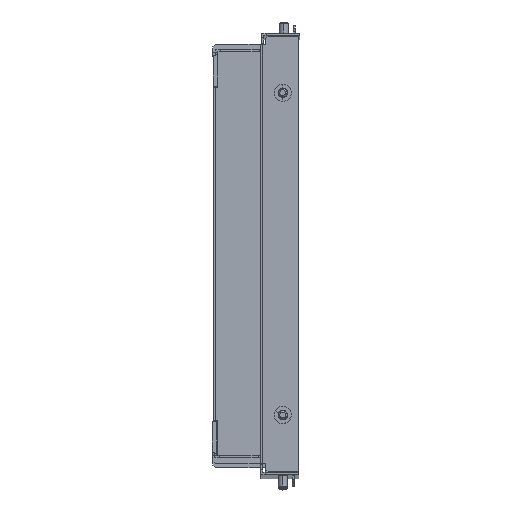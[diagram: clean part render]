
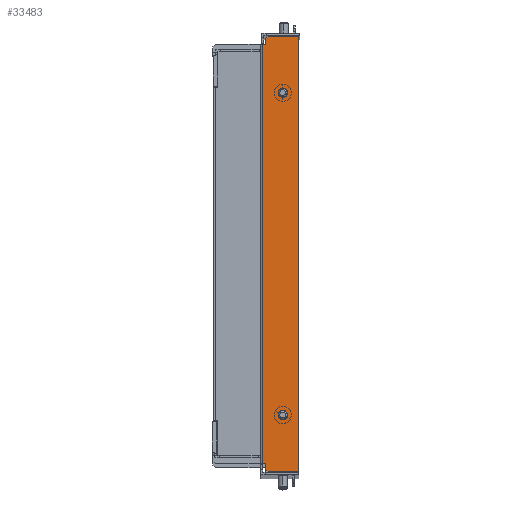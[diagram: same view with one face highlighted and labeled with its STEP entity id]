
A CAD part, top view. The second image highlights one B-rep face of the part: STEP entity #33483.
In plain terms, the highlighted planar face has unit normal (0, 0, 1).
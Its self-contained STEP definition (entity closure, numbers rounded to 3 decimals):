
#249 = CARTESIAN_POINT ( 'NONE',  ( 17.807, 245.878, 2691.5 ) ) ;
#721 = CARTESIAN_POINT ( 'NONE',  ( 28.807, 285.378, 2691.5 ) ) ;
#1241 = ORIENTED_EDGE ( 'NONE', *, *, #10177, .T. ) ;
#1434 = DIRECTION ( 'NONE',  ( 0., -1., 0. ) ) ;
#1448 = CARTESIAN_POINT ( 'NONE',  ( 5.507, -13.122, 2691.5 ) ) ;
#1611 = CARTESIAN_POINT ( 'NONE',  ( 17.807, 245.878, 2691.5 ) ) ;
#2145 = EDGE_CURVE ( 'NONE', #9760, #33600, #11043, .T. ) ;
#2390 = EDGE_CURVE ( 'NONE', #31753, #2550, #22107, .T. ) ;
#2550 = VERTEX_POINT ( 'NONE', #11202 ) ;
#2728 = DIRECTION ( 'NONE',  ( -1., 0., 0. ) ) ;
#2949 = VERTEX_POINT ( 'NONE', #2960 ) ;
#2960 = CARTESIAN_POINT ( 'NONE',  ( 7.507, -18.622, 2691.5 ) ) ;
#3360 = CARTESIAN_POINT ( 'NONE',  ( 2.307, 285.378, 2691.5 ) ) ;
#3705 = DIRECTION ( 'NONE',  ( 0., 0., -1. ) ) ;
#4254 = VECTOR ( 'NONE', #27036, 1000. ) ;
#4578 = CARTESIAN_POINT ( 'NONE',  ( 5.507, -13.122, 2691.5 ) ) ;
#4809 = LINE ( 'NONE', #18665, #4254 ) ;
#5143 = CIRCLE ( 'NONE', #17975, 3.25 ) ;
#5677 = EDGE_CURVE ( 'NONE', #34675, #7368, #19166, .T. ) ;
#6125 = ORIENTED_EDGE ( 'NONE', *, *, #30540, .T. ) ;
#6188 = PLANE ( 'NONE',  #21873 ) ;
#6610 = EDGE_CURVE ( 'NONE', #7368, #28368, #22666, .T. ) ;
#6611 = VECTOR ( 'NONE', #12867, 1000. ) ;
#6713 = ORIENTED_EDGE ( 'NONE', *, *, #2390, .T. ) ;
#7368 = VERTEX_POINT ( 'NONE', #11284 ) ;
#7638 = EDGE_CURVE ( 'NONE', #33965, #16333, #25662, .T. ) ;
#7882 = CARTESIAN_POINT ( 'NONE',  ( 28.807, 279.878, 2691.5 ) ) ;
#8342 = CARTESIAN_POINT ( 'NONE',  ( 28.807, 285.378, 2691.5 ) ) ;
#8650 = AXIS2_PLACEMENT_3D ( 'NONE', #249, #3705, #11723 ) ;
#8916 = ORIENTED_EDGE ( 'NONE', *, *, #5677, .T. ) ;
#9760 = VERTEX_POINT ( 'NONE', #19961 ) ;
#10177 = EDGE_CURVE ( 'NONE', #2550, #31753, #10971, .T. ) ;
#10366 = CARTESIAN_POINT ( 'NONE',  ( 18.157, 296.028, 2691.5 ) ) ;
#10971 = CIRCLE ( 'NONE', #8650, 3.25 ) ;
#11043 = CIRCLE ( 'NONE', #30818, 3.25 ) ;
#11202 = CARTESIAN_POINT ( 'NONE',  ( 21.057, 245.878, 2691.5 ) ) ;
#11284 = CARTESIAN_POINT ( 'NONE',  ( 2.307, 279.878, 2691.5 ) ) ;
#11723 = DIRECTION ( 'NONE',  ( -1., 0., 0. ) ) ;
#11843 = CARTESIAN_POINT ( 'NONE',  ( 5.507, 279.878, 2691.5 ) ) ;
#11973 = VECTOR ( 'NONE', #17039, 1000. ) ;
#12387 = CARTESIAN_POINT ( 'NONE',  ( 14.557, 20.878, 2691.5 ) ) ;
#12508 = CARTESIAN_POINT ( 'NONE',  ( 5.507, 285.378, 2691.5 ) ) ;
#12867 = DIRECTION ( 'NONE',  ( 0., -1., 0. ) ) ;
#13018 = DIRECTION ( 'NONE',  ( -1., 0., 0. ) ) ;
#13503 = CARTESIAN_POINT ( 'NONE',  ( 7.507, 285.378, 2691.5 ) ) ;
#13590 = DIRECTION ( 'NONE',  ( 0.707, -0.707, 0. ) ) ;
#14559 = VERTEX_POINT ( 'NONE', #4578 ) ;
#15948 = ORIENTED_EDGE ( 'NONE', *, *, #6610, .T. ) ;
#16170 = CARTESIAN_POINT ( 'NONE',  ( 2.307, -13.122, 2691.5 ) ) ;
#16333 = VERTEX_POINT ( 'NONE', #21995 ) ;
#16509 = LINE ( 'NONE', #27588, #31262 ) ;
#16935 = CARTESIAN_POINT ( 'NONE',  ( 17.807, 20.878, 2691.5 ) ) ;
#17039 = DIRECTION ( 'NONE',  ( 0., -1., 0. ) ) ;
#17081 = VERTEX_POINT ( 'NONE', #13503 ) ;
#17520 = ORIENTED_EDGE ( 'NONE', *, *, #19838, .T. ) ;
#17575 = EDGE_CURVE ( 'NONE', #14559, #28368, #25675, .T. ) ;
#17853 = DIRECTION ( 'NONE',  ( 0., 0., -1. ) ) ;
#17975 = AXIS2_PLACEMENT_3D ( 'NONE', #16935, #25644, #22360 ) ;
#18313 = CARTESIAN_POINT ( 'NONE',  ( 28.807, -18.622, 2691.5 ) ) ;
#18373 = VECTOR ( 'NONE', #1434, 1000. ) ;
#18665 = CARTESIAN_POINT ( 'NONE',  ( 5.507, -18.622, 2691.5 ) ) ;
#19166 = LINE ( 'NONE', #7882, #19291 ) ;
#19291 = VECTOR ( 'NONE', #32838, 1000. ) ;
#19480 = VERTEX_POINT ( 'NONE', #22143 ) ;
#19838 = EDGE_CURVE ( 'NONE', #14559, #23054, #4809, .T. ) ;
#19961 = CARTESIAN_POINT ( 'NONE',  ( 21.057, 20.878, 2691.5 ) ) ;
#20022 = VECTOR ( 'NONE', #21460, 1000. ) ;
#20539 = EDGE_LOOP ( 'NONE', ( #33363, #32379 ) ) ;
#20798 = CARTESIAN_POINT ( 'NONE',  ( 14.557, 245.878, 2691.5 ) ) ;
#21253 = CARTESIAN_POINT ( 'NONE',  ( -133.843, 122.728, 2691.5 ) ) ;
#21460 = DIRECTION ( 'NONE',  ( -0.707, -0.707, 0. ) ) ;
#21621 = ORIENTED_EDGE ( 'NONE', *, *, #7638, .F. ) ;
#21873 = AXIS2_PLACEMENT_3D ( 'NONE', #33889, #33330, #22768 ) ;
#21922 = VECTOR ( 'NONE', #13590, 1000. ) ;
#21995 = CARTESIAN_POINT ( 'NONE',  ( 28.807, -18.622, 2691.5 ) ) ;
#22107 = CIRCLE ( 'NONE', #30234, 3.25 ) ;
#22143 = CARTESIAN_POINT ( 'NONE',  ( 5.507, 283.378, 2691.5 ) ) ;
#22306 = DIRECTION ( 'NONE',  ( -1., 0., 0. ) ) ;
#22360 = DIRECTION ( 'NONE',  ( -1., 0., 0. ) ) ;
#22666 = LINE ( 'NONE', #3360, #11973 ) ;
#22768 = DIRECTION ( 'NONE',  ( 1., 0., 0. ) ) ;
#23054 = VERTEX_POINT ( 'NONE', #34083 ) ;
#23186 = ORIENTED_EDGE ( 'NONE', *, *, #17575, .F. ) ;
#23671 = EDGE_CURVE ( 'NONE', #23054, #2949, #27077, .T. ) ;
#23953 = EDGE_CURVE ( 'NONE', #16333, #2949, #35427, .T. ) ;
#24681 = ORIENTED_EDGE ( 'NONE', *, *, #23953, .F. ) ;
#25429 = EDGE_LOOP ( 'NONE', ( #17520, #31391, #24681, #21621, #28857, #6125, #35829, #8916, #15948, #23186 ) ) ;
#25490 = FACE_BOUND ( 'NONE', #29577, .T. ) ;
#25579 = EDGE_CURVE ( 'NONE', #33965, #17081, #16509, .T. ) ;
#25644 = DIRECTION ( 'NONE',  ( 0., 0., -1. ) ) ;
#25662 = LINE ( 'NONE', #721, #18373 ) ;
#25675 = LINE ( 'NONE', #1448, #29202 ) ;
#25856 = DIRECTION ( 'NONE',  ( -1., 0., 0. ) ) ;
#26780 = EDGE_CURVE ( 'NONE', #33600, #9760, #5143, .T. ) ;
#27036 = DIRECTION ( 'NONE',  ( 0., -1., 0. ) ) ;
#27077 = LINE ( 'NONE', #21253, #21922 ) ;
#27588 = CARTESIAN_POINT ( 'NONE',  ( 28.807, 285.378, 2691.5 ) ) ;
#27669 = DIRECTION ( 'NONE',  ( 0., 0., -1. ) ) ;
#28221 = FACE_OUTER_BOUND ( 'NONE', #25429, .T. ) ;
#28368 = VERTEX_POINT ( 'NONE', #16170 ) ;
#28857 = ORIENTED_EDGE ( 'NONE', *, *, #25579, .T. ) ;
#29202 = VECTOR ( 'NONE', #25856, 1000. ) ;
#29234 = LINE ( 'NONE', #12508, #6611 ) ;
#29485 = VECTOR ( 'NONE', #13018, 1000. ) ;
#29577 = EDGE_LOOP ( 'NONE', ( #6713, #1241 ) ) ;
#29732 = EDGE_CURVE ( 'NONE', #19480, #34675, #29234, .T. ) ;
#30234 = AXIS2_PLACEMENT_3D ( 'NONE', #1611, #17853, #32212 ) ;
#30540 = EDGE_CURVE ( 'NONE', #17081, #19480, #32748, .T. ) ;
#30818 = AXIS2_PLACEMENT_3D ( 'NONE', #35541, #27669, #2728 ) ;
#30955 = FACE_BOUND ( 'NONE', #20539, .T. ) ;
#31262 = VECTOR ( 'NONE', #22306, 1000. ) ;
#31391 = ORIENTED_EDGE ( 'NONE', *, *, #23671, .T. ) ;
#31753 = VERTEX_POINT ( 'NONE', #20798 ) ;
#32212 = DIRECTION ( 'NONE',  ( -1., 0., 0. ) ) ;
#32379 = ORIENTED_EDGE ( 'NONE', *, *, #2145, .T. ) ;
#32748 = LINE ( 'NONE', #10366, #20022 ) ;
#32838 = DIRECTION ( 'NONE',  ( -1., 0., 0. ) ) ;
#33330 = DIRECTION ( 'NONE',  ( 0., 0., 1. ) ) ;
#33363 = ORIENTED_EDGE ( 'NONE', *, *, #26780, .T. ) ;
#33483 = ADVANCED_FACE ( 'NONE', ( #25490, #30955, #28221 ), #6188, .T. ) ;
#33600 = VERTEX_POINT ( 'NONE', #12387 ) ;
#33889 = CARTESIAN_POINT ( 'NONE',  ( 28.807, 285.378, 2691.5 ) ) ;
#33965 = VERTEX_POINT ( 'NONE', #8342 ) ;
#34083 = CARTESIAN_POINT ( 'NONE',  ( 5.507, -16.622, 2691.5 ) ) ;
#34675 = VERTEX_POINT ( 'NONE', #11843 ) ;
#35427 = LINE ( 'NONE', #18313, #29485 ) ;
#35541 = CARTESIAN_POINT ( 'NONE',  ( 17.807, 20.878, 2691.5 ) ) ;
#35829 = ORIENTED_EDGE ( 'NONE', *, *, #29732, .T. ) ;
